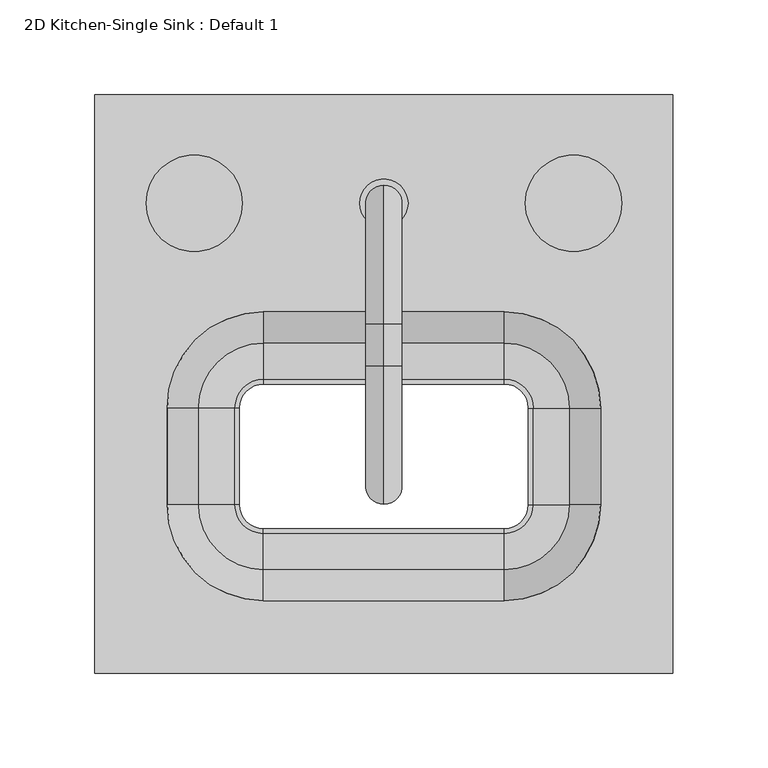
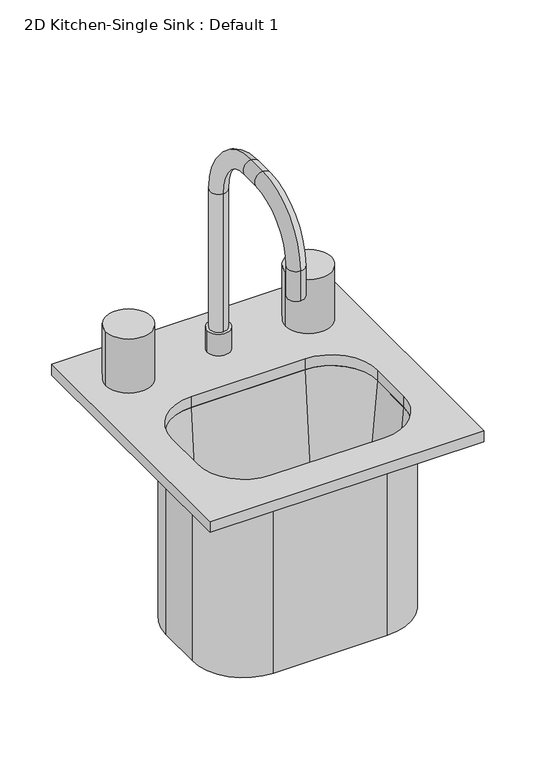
"""IFC4 building model written with IfcOpenShell, lengths in millimetres: flow terminal geometry, 2D Kitchen-Single Sink : Default 1."""

from ifc_helpers import new_model, si_unit, point, frame, frame_2d, origin, place, context, project, spatial, polyline, circle_curve, ellipse_curve, trimmed, segment, composite_curve, outline, extrude, source, transform, mapped, element, save
from ifc_brep_helpers import plane_surface, cylinder_surface, revolved_surface, advanced_brep


def flow_terminal_2d_kitchen_single_sink_default_1_8fd3c1d6(model_context):
    return source(origin(), model_context, "Body", "SolidModel", [
        advanced_brep(
        [(2.9892406, 97.5954011, 800.1), (28.3892406, 97.5954011, 800.1), (15.6892406, 107.1204011, 800.1), (15.6892406, 88.0704011, 800.1), (2.9892406, 97.5954011, 774.7), (28.3892406, 97.5954011, 774.7), (15.6892406, 107.1204011, 962.025), (15.6892406, 88.0704011, 962.025), (15.6892406, 34.0954011, 1035.05), (15.6892406, 34.0954011, 1016.0), (15.6892406, 11.8704011, 1035.05), (15.6892406, 11.8704011, 1016.0), (15.6892406, -61.1545989, 962.025), (15.6892406, -42.1045989, 962.025), (15.6892406, -61.1545989, 927.1), (15.6892406, -42.1045989, 927.1)],
        [
            (0, 1, circle_curve(frame((15.6892406, 97.5954011, 800.1), z_axis=(0.0, 0.0, 1.0), x_axis=(1.0, 0.0, 0.0)), 12.7)),
            (1, 0, circle_curve(frame((15.6892406, 97.5954011, 800.1), z_axis=(0.0, 0.0, 1.0), x_axis=(1.0, 0.0, 0.0)), 12.7)),
            (2, 3, circle_curve(frame((15.6892406, 97.5954011, 800.1), z_axis=(0.0, 0.0, -1.0), x_axis=(0.0, -1.0, 0.0)), 9.525)),
            (3, 2, circle_curve(frame((15.6892406, 97.5954011, 800.1), z_axis=(0.0, 0.0, -1.0), x_axis=(0.0, -1.0, 0.0)), 9.525)),
            (4, 5, circle_curve(frame((15.6892406, 97.5954011, 774.7), z_axis=(0.0, 0.0, -1.0), x_axis=(1.0, 0.0, 0.0)), 12.7)),
            (5, 4, circle_curve(frame((15.6892406, 97.5954011, 774.7), z_axis=(0.0, 0.0, -1.0), x_axis=(1.0, 0.0, 0.0)), 12.7)),
            (0, 4),
            (5, 1),
            (6, 7, circle_curve(frame((15.6892406, 97.5954011, 962.025), z_axis=(0.0, 0.0, -1.0), x_axis=(0.0, -1.0, 0.0)), 9.525)),
            (7, 3),
            (2, 6),
            (7, 6, circle_curve(frame((15.6892406, 97.5954011, 962.025), z_axis=(0.0, 0.0, -1.0), x_axis=(0.0, -1.0, 0.0)), 9.525)),
            (6, 8, circle_curve(frame((15.6892406, 34.0954011, 962.025), z_axis=(1.0, 0.0, 0.0), x_axis=(0.0, 1.0, 0.0)), 73.025)),
            (8, 9, circle_curve(frame((15.6892406, 34.0954011, 1025.525), z_axis=(0.0, 1.0, 0.0), x_axis=(0.0, 0.0, -1.0)), 9.525)),
            (9, 7, circle_curve(frame((15.6892406, 34.0954011, 962.025), z_axis=(-1.0, 0.0, 0.0), x_axis=(0.0, 1.0, 0.0)), 53.975)),
            (9, 8, circle_curve(frame((15.6892406, 34.0954011, 1025.525), z_axis=(0.0, 1.0, 0.0), x_axis=(0.0, 0.0, -1.0)), 9.525)),
            (8, 10),
            (10, 11, circle_curve(frame((15.6892406, 11.8704011, 1025.525), z_axis=(0.0, 1.0, 0.0), x_axis=(0.0, 0.0, -1.0)), 9.525)),
            (11, 9),
            (11, 10, circle_curve(frame((15.6892406, 11.8704011, 1025.525), z_axis=(0.0, 1.0, 0.0), x_axis=(0.0, 0.0, -1.0)), 9.525)),
            (10, 12, circle_curve(frame((15.6892406, 11.8704011, 962.025), z_axis=(1.0, 0.0, 0.0), x_axis=(0.0, 0.0, 1.0)), 73.025)),
            (12, 13, circle_curve(frame((15.6892406, -51.6295989, 962.025), z_axis=(0.0, 0.0, 1.0), x_axis=(0.0, 1.0, 0.0)), 9.525)),
            (13, 11, circle_curve(frame((15.6892406, 11.8704011, 962.025), z_axis=(-1.0, 0.0, 0.0), x_axis=(0.0, 0.0, 1.0)), 53.975)),
            (13, 12, circle_curve(frame((15.6892406, -51.6295989, 962.025), z_axis=(0.0, 0.0, 1.0), x_axis=(0.0, 1.0, 0.0)), 9.525)),
            (14, 15, circle_curve(frame((15.6892406, -51.6295989, 927.1), z_axis=(0.0, 0.0, -1.0), x_axis=(0.0, 1.0, 0.0)), 9.525)),
            (15, 14, circle_curve(frame((15.6892406, -51.6295989, 927.1), z_axis=(0.0, 0.0, -1.0), x_axis=(0.0, 1.0, 0.0)), 9.525)),
            (12, 14),
            (15, 13),
        ],
        [
            plane_surface(frame((28.3892406, 97.5954011, 800.1), z_axis=(0.0, 0.0, 1.0), x_axis=(0.0, 1.0, 0.0))),
            plane_surface(frame((28.3892406, 97.5954011, 774.7), z_axis=(0.0, 0.0, -1.0), x_axis=(0.0, -1.0, 0.0))),
            cylinder_surface(frame((15.6892406, 97.5954011, 774.7), z_axis=(0.0, 0.0, 1.0), x_axis=(1.0, 0.0, 0.0)), 12.7),
            cylinder_surface(frame((15.6892406, 97.5954011, 774.7), z_axis=(0.0, 0.0, -1.0), x_axis=(0.0, -1.0, 0.0)), 9.525),
            revolved_surface(trimmed(ellipse_curve(frame((15.6892406, 97.5954011, 962.025), z_axis=(0.0, 0.0, -1.0), x_axis=(0.0, -1.0, 0.0)), 9.525, 9.525), [point((15.6892406, 107.1204011, 962.025))], [point((15.6892406, 88.0704011, 962.025))], True, "CARTESIAN"), (15.6892406, 34.0954011, 962.025), (1.0, 0.0, 0.0)),
            revolved_surface(trimmed(ellipse_curve(frame((15.6892406, 97.5954011, 962.025), z_axis=(0.0, 0.0, -1.0), x_axis=(0.0, -1.0, 0.0)), 9.525, 9.525), [point((15.6892406, 88.0704011, 962.025))], [point((15.6892406, 107.1204011, 962.025))], True, "CARTESIAN"), (15.6892406, 34.0954011, 962.025), (1.0, 0.0, 0.0)),
            cylinder_surface(frame((15.6892406, 34.0954011, 1025.525), z_axis=(0.0, 1.0, 0.0), x_axis=(0.0, 0.0, -1.0)), 9.525),
            revolved_surface(trimmed(ellipse_curve(frame((15.6892406, 11.8704011, 1025.525), z_axis=(0.0, 1.0, 0.0), x_axis=(0.0, 0.0, -1.0)), 9.525, 9.525), [point((15.6892406, 11.8704011, 1035.05))], [point((15.6892406, 11.8704011, 1016.0))], True, "CARTESIAN"), (15.6892406, 11.8704011, 962.025), (1.0, 0.0, 0.0)),
            revolved_surface(trimmed(ellipse_curve(frame((15.6892406, 11.8704011, 1025.525), z_axis=(0.0, 1.0, 0.0), x_axis=(0.0, 0.0, -1.0)), 9.525, 9.525), [point((15.6892406, 11.8704011, 1016.0))], [point((15.6892406, 11.8704011, 1035.05))], True, "CARTESIAN"), (15.6892406, 11.8704011, 962.025), (1.0, 0.0, 0.0)),
            plane_surface(frame((15.6892406, -61.1545989, 927.1), z_axis=(0.0, 0.0, -1.0), x_axis=(-1.0, 0.0, 0.0))),
            cylinder_surface(frame((15.6892406, -51.6295989, 962.025), z_axis=(0.0, 0.0, 1.0), x_axis=(0.0, 1.0, 0.0)), 9.525),
        ],
        [
            (0, [[1, 2], [3, 4]]),
            (1, [[5, 6]]),
            (2, [[-1, 7, -6, 8]]),
            (2, [[-2, -8, -5, -7]]),
            (3, [[9, 10, -3, 11]]),
            (3, [[12, -11, -4, -10]]),
            (4, [[-9, 13, 14, 15]]),
            (5, [[-12, -15, 16, -13]]),
            (6, [[-14, 17, 18, 19]]),
            (6, [[-16, -19, 20, -17]]),
            (7, [[-18, 21, 22, 23]]),
            (8, [[-20, -23, 24, -21]]),
            (9, [[25, 26]]),
            (10, [[-22, 27, -26, 28]]),
            (10, [[-24, -28, -25, -27]]),
        ],
    ),
        extrude(outline(composite_curve([segment(trimmed(circle_curve(frame_2d((-84.3107594, 97.5954011)), 25.4), [point((-109.7107594, 97.5954011))], [point((-58.9107594, 97.5954011))], False, "CARTESIAN"), True, "CONTINUOUS"), segment(trimmed(circle_curve(frame_2d((-84.3107594, 97.5954011)), 25.4), [point((-58.9107594, 97.5954011))], [point((-109.7107594, 97.5954011))], False, "CARTESIAN"), True, "CONTINUOUS")], self_intersect=False)), frame((0.0, 0.0, 774.7), z_axis=(0.0, 0.0, 1.0), x_axis=(1.0, 0.0, 0.0)), (0.0, 0.0, 1.0), 63.5),
        extrude(outline(composite_curve([segment(trimmed(circle_curve(frame_2d((115.6892406, 97.5954011)), 25.4), [point((90.2892406, 97.5954011))], [point((141.0892406, 97.5954011))], False, "CARTESIAN"), True, "CONTINUOUS"), segment(trimmed(circle_curve(frame_2d((115.6892406, 97.5954011)), 25.4), [point((141.0892406, 97.5954011))], [point((90.2892406, 97.5954011))], False, "CARTESIAN"), True, "CONTINUOUS")], self_intersect=False)), frame((0.0, 0.0, 774.7), z_axis=(0.0, 0.0, 1.0), x_axis=(1.0, 0.0, 0.0)), (0.0, 0.0, 1.0), 63.5),
        advanced_brep(
        [(136.3392406, -10.3545989, 546.1), (79.1892406, 46.7954011, 546.1), (79.1892406, 46.7954011, 762.0), (136.3392406, -10.3545989, 762.0), (91.8892406, -10.3545989, 546.1), (79.1892406, 2.3454011, 546.1), (94.4776588, -10.3545989, 555.625), (79.1892406, 4.9338193, 555.625), (79.1892406, 2.3454011, 555.625), (91.8892406, -10.3545989, 555.625), (113.4551678, -10.3545989, 573.0146831), (79.1892406, 23.9113283, 573.0146831), (129.9892406, -10.3545989, 762.0), (79.1892406, 40.4454011, 762.0), (136.3392406, -61.1545989, 762.0), (136.3392406, -61.1545989, 546.1), (94.4776588, -61.1545989, 555.625), (113.4551678, -61.1545989, 573.0146831), (129.9892406, -61.1545989, 762.0), (79.1892406, -118.3045989, 546.1), (79.1892406, -118.3045989, 762.0), (79.1892406, -95.4205261, 573.0146831), (79.1892406, -76.4430171, 555.625), (79.1892406, -111.9545989, 762.0), (-47.8107594, -118.3045989, 762.0), (-47.8107594, -118.3045989, 546.1), (-47.8107594, -76.4430171, 555.625), (-47.8107594, -95.4205261, 573.0146831), (-47.8107594, -111.9545989, 762.0), (-104.9607594, -61.1545989, 546.1), (-104.9607594, -61.1545989, 762.0), (-82.0766866, -61.1545989, 573.0146831), (-63.0991776, -61.1545989, 555.625), (-98.6107594, -61.1545989, 762.0), (-104.9607594, -10.3545989, 762.0), (-104.9607594, -10.3545989, 546.1), (-63.0991776, -10.3545989, 555.625), (-82.0766866, -10.3545989, 573.0146831), (-98.6107594, -10.3545989, 762.0), (-47.8107594, 46.7954011, 546.1), (-47.8107594, 46.7954011, 762.0), (-47.8107594, 23.9113283, 573.0146831), (-47.8107594, 4.9338193, 555.625), (-47.8107594, 40.4454011, 762.0), (91.8892406, -61.1545989, 546.1), (91.8892406, -61.1545989, 555.625), (79.1892406, -73.8545989, 546.1), (79.1892406, -73.8545989, 555.625), (-47.8107594, -73.8545989, 546.1), (-47.8107594, -73.8545989, 555.625), (-60.5107594, -61.1545989, 546.1), (-60.5107594, -61.1545989, 555.625), (-60.5107594, -10.3545989, 546.1), (-60.5107594, -10.3545989, 555.625), (-47.8107594, 2.3454011, 546.1), (-47.8107594, 2.3454011, 555.625)],
        [
            (0, 1, circle_curve(frame((79.1892406, -10.3545989, 546.1), z_axis=(0.0, 0.0, 1.0), x_axis=(0.0, 1.0, 0.0)), 57.15)),
            (1, 2),
            (2, 3, circle_curve(frame((79.1892406, -10.3545989, 762.0), z_axis=(0.0, 0.0, -1.0), x_axis=(0.0, 1.0, 0.0)), 57.15)),
            (3, 0),
            (4, 5, circle_curve(frame((79.1892406, -10.3545989, 546.1), z_axis=(0.0, 0.0, 1.0), x_axis=(0.0, 1.0, 0.0)), 12.7)),
            (5, 1),
            (0, 4),
            (6, 7, circle_curve(frame((79.1892406, -10.3545989, 555.625), z_axis=(0.0, 0.0, 1.0), x_axis=(0.0, 1.0, 0.0)), 15.2884182)),
            (7, 8),
            (8, 9, circle_curve(frame((79.1892406, -10.3545989, 555.625), z_axis=(0.0, 0.0, -1.0), x_axis=(0.0, 1.0, 0.0)), 12.7)),
            (9, 6),
            (10, 11, circle_curve(frame((79.1892406, -10.3545989, 573.0146831), z_axis=(0.0, 0.0, 1.0), x_axis=(0.0, 1.0, 0.0)), 34.2659272)),
            (11, 7, circle_curve(frame((79.1892406, 4.9338193, 574.675), z_axis=(-1.0, 0.0, 0.0), x_axis=(0.0, 1.0, 0.0)), 19.05)),
            (6, 10, circle_curve(frame((94.4776588, -10.3545989, 574.675), z_axis=(0.0, -1.0, 0.0), x_axis=(1.0, 0.0, 0.0)), 19.05)),
            (12, 13, circle_curve(frame((79.1892406, -10.3545989, 762.0), z_axis=(0.0, 0.0, 1.0), x_axis=(0.0, 1.0, 0.0)), 50.8)),
            (13, 11),
            (10, 12),
            (2, 13),
            (12, 3),
            (3, 14),
            (14, 15),
            (15, 0),
            (6, 16),
            (16, 17, circle_curve(frame((94.4776588, -61.1545989, 574.675), z_axis=(0.0, -1.0, 0.0), x_axis=(1.0, 0.0, 0.0)), 19.05)),
            (17, 10),
            (17, 18),
            (18, 12),
            (18, 14),
            (19, 15, circle_curve(frame((79.1892406, -61.1545989, 546.1), z_axis=(0.0, 0.0, 1.0), x_axis=(1.0, 0.0, 0.0)), 57.15)),
            (14, 20, circle_curve(frame((79.1892406, -61.1545989, 762.0), z_axis=(0.0, 0.0, -1.0), x_axis=(1.0, 0.0, 0.0)), 57.15)),
            (20, 19),
            (21, 17, circle_curve(frame((79.1892406, -61.1545989, 573.0146831), z_axis=(0.0, 0.0, 1.0), x_axis=(1.0, 0.0, 0.0)), 34.2659272)),
            (16, 22, circle_curve(frame((79.1892406, -61.1545989, 555.625), z_axis=(0.0, 0.0, -1.0), x_axis=(1.0, 0.0, 0.0)), 15.2884182)),
            (22, 21, circle_curve(frame((79.1892406, -76.4430171, 574.675), z_axis=(-1.0, 0.0, 0.0), x_axis=(0.0, -1.0, 0.0)), 19.05)),
            (23, 18, circle_curve(frame((79.1892406, -61.1545989, 762.0), z_axis=(0.0, 0.0, 1.0), x_axis=(1.0, 0.0, 0.0)), 50.8)),
            (21, 23),
            (23, 20),
            (20, 24),
            (24, 25),
            (25, 19),
            (22, 26),
            (26, 27, circle_curve(frame((-47.8107594, -76.4430171, 574.675), z_axis=(-1.0, 0.0, 0.0), x_axis=(0.0, -1.0, 0.0)), 19.05)),
            (27, 21),
            (27, 28),
            (28, 23),
            (28, 24),
            (29, 25, circle_curve(frame((-47.8107594, -61.1545989, 546.1), z_axis=(0.0, 0.0, 1.0), x_axis=(0.0, -1.0, 0.0)), 57.15)),
            (24, 30, circle_curve(frame((-47.8107594, -61.1545989, 762.0), z_axis=(0.0, 0.0, -1.0), x_axis=(0.0, -1.0, 0.0)), 57.15)),
            (30, 29),
            (31, 27, circle_curve(frame((-47.8107594, -61.1545989, 573.0146831), z_axis=(0.0, 0.0, 1.0), x_axis=(0.0, -1.0, 0.0)), 34.2659272)),
            (26, 32, circle_curve(frame((-47.8107594, -61.1545989, 555.625), z_axis=(0.0, 0.0, -1.0), x_axis=(0.0, -1.0, 0.0)), 15.2884182)),
            (32, 31, circle_curve(frame((-63.0991776, -61.1545989, 574.675), z_axis=(0.0, 1.0, 0.0), x_axis=(-1.0, 0.0, 0.0)), 19.05)),
            (33, 28, circle_curve(frame((-47.8107594, -61.1545989, 762.0), z_axis=(0.0, 0.0, 1.0), x_axis=(0.0, -1.0, 0.0)), 50.8)),
            (31, 33),
            (33, 30),
            (30, 34),
            (34, 35),
            (35, 29),
            (32, 36),
            (36, 37, circle_curve(frame((-63.0991776, -10.3545989, 574.675), z_axis=(0.0, 1.0, 0.0), x_axis=(-1.0, 0.0, 0.0)), 19.05)),
            (37, 31),
            (37, 38),
            (38, 33),
            (38, 34),
            (39, 35, circle_curve(frame((-47.8107594, -10.3545989, 546.1), z_axis=(0.0, 0.0, 1.0), x_axis=(-1.0, 0.0, 0.0)), 57.15)),
            (34, 40, circle_curve(frame((-47.8107594, -10.3545989, 762.0), z_axis=(0.0, 0.0, -1.0), x_axis=(-1.0, 0.0, 0.0)), 57.15)),
            (40, 39),
            (41, 37, circle_curve(frame((-47.8107594, -10.3545989, 573.0146831), z_axis=(0.0, 0.0, 1.0), x_axis=(-1.0, 0.0, 0.0)), 34.2659272)),
            (36, 42, circle_curve(frame((-47.8107594, -10.3545989, 555.625), z_axis=(0.0, 0.0, -1.0), x_axis=(-1.0, 0.0, 0.0)), 15.2884182)),
            (42, 41, circle_curve(frame((-47.8107594, 4.9338193, 574.675), z_axis=(1.0, 0.0, 0.0), x_axis=(0.0, 1.0, 0.0)), 19.05)),
            (43, 38, circle_curve(frame((-47.8107594, -10.3545989, 762.0), z_axis=(0.0, 0.0, 1.0), x_axis=(-1.0, 0.0, 0.0)), 50.8)),
            (41, 43),
            (43, 40),
            (40, 2),
            (1, 39),
            (42, 7),
            (11, 41),
            (13, 43),
            (8, 5),
            (4, 9),
            (15, 44),
            (44, 4),
            (44, 45),
            (45, 9),
            (45, 16),
            (46, 44, circle_curve(frame((79.1892406, -61.1545989, 546.1), z_axis=(0.0, 0.0, 1.0), x_axis=(1.0, 0.0, 0.0)), 12.7)),
            (19, 46),
            (47, 45, circle_curve(frame((79.1892406, -61.1545989, 555.625), z_axis=(0.0, 0.0, 1.0), x_axis=(1.0, 0.0, 0.0)), 12.7)),
            (46, 47),
            (47, 22),
            (25, 48),
            (48, 46),
            (48, 49),
            (49, 47),
            (49, 26),
            (50, 48, circle_curve(frame((-47.8107594, -61.1545989, 546.1), z_axis=(0.0, 0.0, 1.0), x_axis=(0.0, -1.0, 0.0)), 12.7)),
            (29, 50),
            (51, 49, circle_curve(frame((-47.8107594, -61.1545989, 555.625), z_axis=(0.0, 0.0, 1.0), x_axis=(0.0, -1.0, 0.0)), 12.7)),
            (50, 51),
            (51, 32),
            (35, 52),
            (52, 50),
            (52, 53),
            (53, 51),
            (53, 36),
            (54, 52, circle_curve(frame((-47.8107594, -10.3545989, 546.1), z_axis=(0.0, 0.0, 1.0), x_axis=(-1.0, 0.0, 0.0)), 12.7)),
            (39, 54),
            (55, 53, circle_curve(frame((-47.8107594, -10.3545989, 555.625), z_axis=(0.0, 0.0, 1.0), x_axis=(-1.0, 0.0, 0.0)), 12.7)),
            (54, 55),
            (55, 42),
            (5, 54),
            (8, 55),
        ],
        [
            cylinder_surface(frame((79.1892406, -10.3545989, 0.0), z_axis=(0.0, 0.0, -1.0), x_axis=(0.0, 1.0, 0.0)), 57.15),
            plane_surface(frame((79.1892406, -10.3545989, 546.1), z_axis=(0.0, 0.0, -1.0), x_axis=(0.0, 1.0, 0.0))),
            plane_surface(frame((79.1892406, -10.3545989, 555.625), z_axis=(0.0, 0.0, 1.0), x_axis=(0.0, 1.0, 0.0))),
            revolved_surface(trimmed(ellipse_curve(frame((79.1892406, 4.9338193, 574.675), z_axis=(1.0, 0.0, 0.0), x_axis=(0.0, 1.0, 0.0)), 19.05, 19.05), [point((79.1892406, 4.9338193, 555.625))], [point((79.1892406, 23.9113283, 573.0146831))], True, "CARTESIAN"), (79.1892406, -10.3545989, 0.0), (0.0, 0.0, -1.0)),
            revolved_surface(polyline([(79.1892406, 23.9113283, 573.0146831), (79.1892406, 40.4454011, 762.0)]), (79.1892406, -10.3545989, 0.0), (0.0, 0.0, -1.0)),
            plane_surface(frame((79.1892406, -10.3545989, 762.0), z_axis=(0.0, 0.0, 1.0), x_axis=(0.0, 1.0, 0.0))),
            plane_surface(frame((136.3392406, -10.3545989, 762.0), z_axis=(1.0, 0.0, 0.0), x_axis=(0.0, -1.0, 0.0))),
            revolved_surface(polyline([(113.5276588, -61.1545989, 574.675), (113.5276588, -10.3545989, 574.675)]), (94.4776588, -10.3545989, 574.675), (0.0, -1.0, 0.0)),
            plane_surface(frame((113.4551678, -10.3545989, 573.0146831), z_axis=(-0.9961946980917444, 0.0, 0.08715574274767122), x_axis=(0.0, -1.0, 0.0))),
            plane_surface(frame((129.9892406, -10.3545989, 762.0), z_axis=(0.0, 0.0, 1.0), x_axis=(0.0, -1.0, 0.0))),
            cylinder_surface(frame((79.1892406, -61.1545989, 0.0), z_axis=(0.0, 0.0, -1.0), x_axis=(1.0, 0.0, 0.0)), 57.15),
            revolved_surface(trimmed(ellipse_curve(frame((94.4776588, -61.1545989, 574.675), z_axis=(0.0, -1.0, 0.0), x_axis=(1.0, 0.0, 0.0)), 19.05, 19.05), [point((94.4776588, -61.1545989, 555.625))], [point((113.4551678, -61.1545989, 573.0146831))], True, "CARTESIAN"), (79.1892406, -61.1545989, 0.0), (0.0, 0.0, -1.0)),
            revolved_surface(polyline([(113.4551678, -61.1545989, 573.0146831), (129.9892406, -61.1545989, 762.0)]), (79.1892406, -61.1545989, 0.0), (0.0, 0.0, -1.0)),
            plane_surface(frame((79.1892406, -61.1545989, 762.0), z_axis=(0.0, 0.0, 1.0), x_axis=(1.0, 0.0, 0.0))),
            plane_surface(frame((79.1892406, -118.3045989, 762.0), z_axis=(0.0, -1.0, 0.0), x_axis=(-1.0, 0.0, 0.0))),
            revolved_surface(polyline([(-47.810759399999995, -95.4930171, 574.675), (79.1892406, -95.4930171, 574.675)]), (79.1892406, -76.4430171, 574.675), (-1.0, 0.0, 0.0)),
            plane_surface(frame((79.1892406, -95.4205261, 573.0146831), z_axis=(0.0, 0.9961946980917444, 0.08715574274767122), x_axis=(-1.0, 0.0, 0.0))),
            plane_surface(frame((79.1892406, -111.9545989, 762.0), z_axis=(0.0, 0.0, 1.0), x_axis=(-1.0, 0.0, 0.0))),
            cylinder_surface(frame((-47.8107594, -61.1545989, 0.0), z_axis=(0.0, 0.0, -1.0), x_axis=(0.0, -1.0, 0.0)), 57.15),
            revolved_surface(trimmed(ellipse_curve(frame((-47.8107594, -76.4430171, 574.675), z_axis=(-1.0, 0.0, 0.0), x_axis=(0.0, -1.0, 0.0)), 19.05, 19.05), [point((-47.8107594, -76.4430171, 555.625))], [point((-47.8107594, -95.4205261, 573.0146831))], True, "CARTESIAN"), (-47.8107594, -61.1545989, 0.0), (0.0, 0.0, -1.0)),
            revolved_surface(polyline([(-47.8107594, -95.4205261, 573.0146831), (-47.8107594, -111.9545989, 762.0)]), (-47.8107594, -61.1545989, 0.0), (0.0, 0.0, -1.0)),
            plane_surface(frame((-47.8107594, -61.1545989, 762.0), z_axis=(0.0, 0.0, 1.0), x_axis=(0.0, -1.0, 0.0))),
            plane_surface(frame((-104.9607594, -61.1545989, 762.0), z_axis=(-1.0, 0.0, 0.0), x_axis=(0.0, 1.0, 0.0))),
            revolved_surface(polyline([(-82.1491776, -10.3545989, 574.675), (-82.1491776, -61.1545989, 574.675)]), (-63.0991776, -61.1545989, 574.675), (0.0, 1.0, 0.0)),
            plane_surface(frame((-82.0766866, -61.1545989, 573.0146831), z_axis=(0.9961946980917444, 0.0, 0.08715574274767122), x_axis=(0.0, 1.0, 0.0))),
            plane_surface(frame((-98.6107594, -61.1545989, 762.0), z_axis=(0.0, 0.0, 1.0), x_axis=(0.0, 1.0, 0.0))),
            cylinder_surface(frame((-47.8107594, -10.3545989, 0.0), z_axis=(0.0, 0.0, -1.0), x_axis=(-1.0, 0.0, 0.0)), 57.15),
            revolved_surface(trimmed(ellipse_curve(frame((-63.0991776, -10.3545989, 574.675), z_axis=(0.0, 1.0, 0.0), x_axis=(-1.0, 0.0, 0.0)), 19.05, 19.05), [point((-63.0991776, -10.3545989, 555.625))], [point((-82.0766866, -10.3545989, 573.0146831))], True, "CARTESIAN"), (-47.8107594, -10.3545989, 0.0), (0.0, 0.0, -1.0)),
            revolved_surface(polyline([(-82.0766866, -10.3545989, 573.0146831), (-98.6107594, -10.3545989, 762.0)]), (-47.8107594, -10.3545989, 0.0), (0.0, 0.0, -1.0)),
            plane_surface(frame((-47.8107594, -10.3545989, 762.0), z_axis=(0.0, 0.0, 1.0), x_axis=(-1.0, 0.0, 0.0))),
            plane_surface(frame((-47.8107594, 46.7954011, 762.0), z_axis=(0.0, 1.0, 0.0), x_axis=(1.0, 0.0, 0.0))),
            revolved_surface(polyline([(79.1892406, 23.9838193, 574.675), (-47.8107594, 23.9838193, 574.675)]), (-47.8107594, 4.9338193, 574.675), (1.0, 0.0, 0.0)),
            plane_surface(frame((-47.8107594, 23.9113283, 573.0146831), z_axis=(0.0, -0.9961946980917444, 0.08715574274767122), x_axis=(1.0, 0.0, 0.0))),
            plane_surface(frame((-47.8107594, 40.4454011, 762.0), z_axis=(0.0, 0.0, 1.0), x_axis=(1.0, 0.0, 0.0))),
            revolved_surface(polyline([(79.1892406, 2.3454011, 546.1), (79.1892406, 2.3454011, 555.625)]), (79.1892406, -10.3545989, 0.0), (0.0, 0.0, -1.0)),
            plane_surface(frame((136.3392406, -10.3545989, 546.1), z_axis=(0.0, 0.0, -1.0), x_axis=(0.0, -1.0, 0.0))),
            plane_surface(frame((91.8892406, -10.3545989, 546.1), z_axis=(-1.0, 0.0, 0.0), x_axis=(0.0, -1.0, 0.0))),
            plane_surface(frame((91.8892406, -10.3545989, 555.625), z_axis=(0.0, 0.0, 1.0), x_axis=(0.0, -1.0, 0.0))),
            plane_surface(frame((79.1892406, -61.1545989, 546.1), z_axis=(0.0, 0.0, -1.0), x_axis=(1.0, 0.0, 0.0))),
            revolved_surface(polyline([(91.88924060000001, -61.1545989, 546.1), (91.88924060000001, -61.1545989, 555.625)]), (79.1892406, -61.1545989, 0.0), (0.0, 0.0, -1.0)),
            plane_surface(frame((79.1892406, -61.1545989, 555.625), z_axis=(0.0, 0.0, 1.0), x_axis=(1.0, 0.0, 0.0))),
            plane_surface(frame((79.1892406, -118.3045989, 546.1), z_axis=(0.0, 0.0, -1.0), x_axis=(-1.0, 0.0, 0.0))),
            plane_surface(frame((79.1892406, -73.8545989, 546.1), z_axis=(0.0, 1.0, 0.0), x_axis=(-1.0, 0.0, 0.0))),
            plane_surface(frame((79.1892406, -73.8545989, 555.625), z_axis=(0.0, 0.0, 1.0), x_axis=(-1.0, 0.0, 0.0))),
            plane_surface(frame((-47.8107594, -61.1545989, 546.1), z_axis=(0.0, 0.0, -1.0), x_axis=(0.0, -1.0, 0.0))),
            revolved_surface(polyline([(-47.8107594, -73.8545989, 546.1), (-47.8107594, -73.8545989, 555.625)]), (-47.8107594, -61.1545989, 0.0), (0.0, 0.0, -1.0)),
            plane_surface(frame((-47.8107594, -61.1545989, 555.625), z_axis=(0.0, 0.0, 1.0), x_axis=(0.0, -1.0, 0.0))),
            plane_surface(frame((-104.9607594, -61.1545989, 546.1), z_axis=(0.0, 0.0, -1.0), x_axis=(0.0, 1.0, 0.0))),
            plane_surface(frame((-60.5107594, -61.1545989, 546.1), z_axis=(1.0, 0.0, 0.0), x_axis=(0.0, 1.0, 0.0))),
            plane_surface(frame((-60.5107594, -61.1545989, 555.625), z_axis=(0.0, 0.0, 1.0), x_axis=(0.0, 1.0, 0.0))),
            plane_surface(frame((-47.8107594, -10.3545989, 546.1), z_axis=(0.0, 0.0, -1.0), x_axis=(-1.0, 0.0, 0.0))),
            revolved_surface(polyline([(-60.5107594, -10.3545989, 546.1), (-60.5107594, -10.3545989, 555.625)]), (-47.8107594, -10.3545989, 0.0), (0.0, 0.0, -1.0)),
            plane_surface(frame((-47.8107594, -10.3545989, 555.625), z_axis=(0.0, 0.0, 1.0), x_axis=(-1.0, 0.0, 0.0))),
            plane_surface(frame((-47.8107594, 46.7954011, 546.1), z_axis=(0.0, 0.0, -1.0), x_axis=(1.0, 0.0, 0.0))),
            plane_surface(frame((-47.8107594, 2.3454011, 546.1), z_axis=(0.0, -1.0, 0.0), x_axis=(1.0, 0.0, 0.0))),
            plane_surface(frame((-47.8107594, 2.3454011, 555.625), z_axis=(0.0, 0.0, 1.0), x_axis=(1.0, 0.0, 0.0))),
        ],
        [
            (0, [[1, 2, 3, 4]]),
            (1, [[5, 6, -1, 7]]),
            (2, [[8, 9, 10, 11]]),
            (3, [[12, 13, -8, 14]]),
            (4, [[15, 16, -12, 17]]),
            (5, [[-3, 18, -15, 19]]),
            (6, [[-4, 20, 21, 22]]),
            (7, [[-14, 23, 24, 25]]),
            (8, [[-17, -25, 26, 27]]),
            (9, [[-19, -27, 28, -20]]),
            (10, [[29, -21, 30, 31]]),
            (11, [[32, -24, 33, 34]]),
            (12, [[35, -26, -32, 36]]),
            (13, [[-30, -28, -35, 37]]),
            (14, [[-31, 38, 39, 40]]),
            (15, [[-34, 41, 42, 43]]),
            (16, [[-36, -43, 44, 45]]),
            (17, [[-37, -45, 46, -38]]),
            (18, [[47, -39, 48, 49]]),
            (19, [[50, -42, 51, 52]]),
            (20, [[53, -44, -50, 54]]),
            (21, [[-48, -46, -53, 55]]),
            (22, [[-49, 56, 57, 58]]),
            (23, [[-52, 59, 60, 61]]),
            (24, [[-54, -61, 62, 63]]),
            (25, [[-55, -63, 64, -56]]),
            (26, [[65, -57, 66, 67]]),
            (27, [[68, -60, 69, 70]]),
            (28, [[71, -62, -68, 72]]),
            (29, [[-66, -64, -71, 73]]),
            (30, [[-67, 74, -2, 75]]),
            (31, [[-70, 76, -13, 77]]),
            (32, [[-72, -77, -16, 78]]),
            (33, [[-73, -78, -18, -74]]),
            (34, [[-10, 79, -5, 80]]),
            (35, [[-7, -22, 81, 82]]),
            (36, [[-80, -82, 83, 84]]),
            (37, [[-11, -84, 85, -23]]),
            (38, [[86, -81, -29, 87]]),
            (39, [[88, -83, -86, 89]]),
            (40, [[-33, -85, -88, 90]]),
            (41, [[-87, -40, 91, 92]]),
            (42, [[-89, -92, 93, 94]]),
            (43, [[-90, -94, 95, -41]]),
            (44, [[96, -91, -47, 97]]),
            (45, [[98, -93, -96, 99]]),
            (46, [[-51, -95, -98, 100]]),
            (47, [[-97, -58, 101, 102]]),
            (48, [[-99, -102, 103, 104]]),
            (49, [[-100, -104, 105, -59]]),
            (50, [[106, -101, -65, 107]]),
            (51, [[108, -103, -106, 109]]),
            (52, [[-69, -105, -108, 110]]),
            (53, [[-107, -75, -6, 111]]),
            (54, [[-109, -111, -79, 112]]),
            (55, [[-110, -112, -9, -76]]),
        ],
    ),
        extrude(outline(polyline([(168.0892406, 154.7454011), (168.0892406, -150.0545989), (-136.7107594, -150.0545989), (-136.7107594, 154.7454011), (168.0892406, 154.7454011)]), holes=[composite_curve([segment(polyline([(79.1892406, 40.4454011), (-47.8107594, 40.4454011)]), True, "CONTINUOUS"), segment(trimmed(circle_curve(frame_2d((-47.8107594, -10.3545989)), 50.8), [point((-47.8107594, 40.4454011))], [point((-98.6107594, -10.3545989))], True, "CARTESIAN"), True, "CONTINUOUS"), segment(polyline([(-98.6107594, -10.3545989), (-98.6107594, -61.1545989)]), True, "CONTINUOUS"), segment(trimmed(circle_curve(frame_2d((-47.8107594, -61.1545989)), 50.8), [point((-98.6107594, -61.1545989))], [point((-47.8107594, -111.9545989))], True, "CARTESIAN"), True, "CONTINUOUS"), segment(polyline([(-47.8107594, -111.9545989), (79.1892406, -111.9545989)]), True, "CONTINUOUS"), segment(trimmed(circle_curve(frame_2d((79.1892406, -61.1545989)), 50.8), [point((79.1892406, -111.9545989))], [point((129.9892406, -61.1545989))], True, "CARTESIAN"), True, "CONTINUOUS"), segment(polyline([(129.9892406, -61.1545989), (129.9892406, -10.3545989)]), True, "CONTINUOUS"), segment(trimmed(circle_curve(frame_2d((79.1892406, -10.3545989)), 50.8), [point((129.9892406, -10.3545989))], [point((79.1892406, 40.4454011))], True, "CARTESIAN"), True, "CONTINUOUS")], self_intersect=False)]), frame((0.0, 0.0, 762.0), z_axis=(0.0, 0.0, 1.0), x_axis=(1.0, 0.0, 0.0)), (0.0, 0.0, 1.0), 12.7),
    ])


if __name__ == "__main__":
    model = new_model("IFC4")
    model_context = context("Model", 3, world=origin())
    ifc_project = project(units=[si_unit("LENGTHUNIT", "METRE", prefix="MILLI")], contexts=[model_context])
    site = spatial("IfcSite", under=ifc_project)
    building = spatial("IfcBuilding", under=site)
    placement = place(None, origin())
    flow_terminal_2d_kitchen_single_sink_default_1_shape = flow_terminal_2d_kitchen_single_sink_default_1_8fd3c1d6(model_context)
    element("IfcFlowTerminal", 1, ObjectType="2D Kitchen-Single Sink : Default 1", at=placement, inside=building, context=model_context, shape_type="MappedRepresentation", body=[
        mapped(flow_terminal_2d_kitchen_single_sink_default_1_shape, transform((0.0, 0.0, 0.0), x_axis=(1.0, 0.0, 0.0), y_axis=(0.0, 1.0, 0.0), z_axis=(0.0, 0.0, 1.0))),
    ])
    save(model, "model.ifc")
